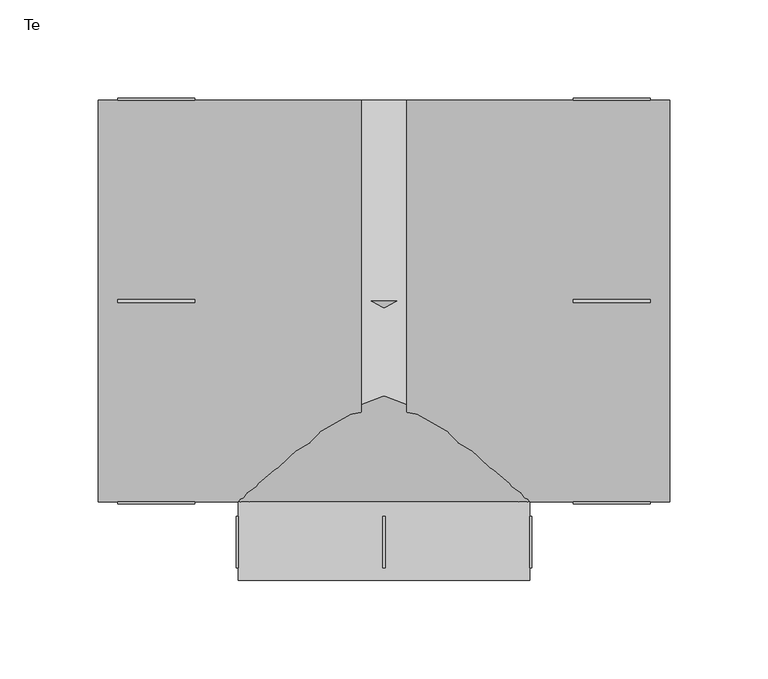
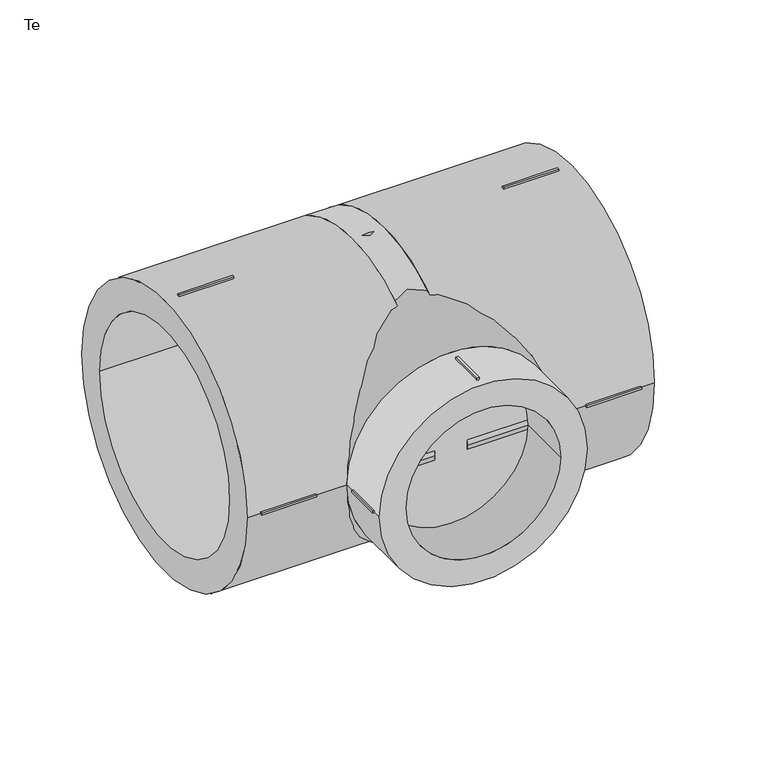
"""IFC4 building model written with IfcOpenShell, lengths in millimetres: pipe fitting geometry, EGB_VASEN_ PPR_Te WXR300_Te reducida WXR310 : Te."""

import ifcopenshell
import ifcopenshell.guid

model = None  # the IFC model being written
_history = None  # IfcOwnerHistory: only IFC2X3 demands one
_inside = {}  # id of a spatial element -> (the spatial element, [elements in it])
_under = {}  # id of a project, library or spatial element -> (it, [spatial elements below it])
_declared = {}  # id of a project -> (the project, [libraries it declares])
_typed = {}  # id of a type object -> (the type object, [elements of that type])
_made_of = {}  # id of a material, layer set ... -> (it, [elements and type objects made of it])


def new_model(schema):
    """Start an empty IFC model of exactly this schema.

    Asked for "IFC4X3", IfcOpenShell would pick the latest addendum, in which some entities
    have other attributes; the version numbers below select the first issue.
    IFC2X3 requires an IfcOwnerHistory on every rooted entity: one is made here for all.
    """
    global model, _history
    if schema == "IFC4X3":
        model = ifcopenshell.file(schema_version=(4, 3, 0, 0))
    else:
        model = ifcopenshell.file(schema=schema)
    _inside.clear()
    _under.clear()
    _declared.clear()
    _typed.clear()
    _made_of.clear()
    _history = None
    if model.schema == "IFC2X3":
        org = make("IfcOrganization", Name="unknown")
        user = make(
            "IfcPersonAndOrganization",
            ThePerson=make("IfcPerson", FamilyName="unknown"),
            TheOrganization=org,
        )
        app = make(
            "IfcApplication",
            ApplicationDeveloper=org,
            Version="unknown",
            ApplicationFullName="unknown",
            ApplicationIdentifier="unknown",
        )
        _history = make(
            "IfcOwnerHistory",
            OwningUser=user,
            OwningApplication=app,
            ChangeAction="ADDED",
            CreationDate=0,
        )
    return model


def make(cls, **values):
    """One entity of the class cls with the attributes given. An attribute that is None is left unset."""
    return model.create_entity(
        cls, **{name: value for name, value in values.items() if value is not None}
    )


def rooted(cls, **values):
    """An entity with a GlobalId (a new one), such as an element, a storey or a relation."""
    return make(cls, GlobalId=ifcopenshell.guid.new(), OwnerHistory=_history, **values)


def si_unit(unit_type, name, prefix=None):
    """IfcSIUnit, for example si_unit("LENGTHUNIT", "METRE", prefix="MILLI")."""
    return make("IfcSIUnit", UnitType=unit_type, Prefix=prefix, Name=name)


def assignment(units):
    """IfcUnitAssignment: the units of a project."""
    return None if units is None else make("IfcUnitAssignment", Units=units)


def point(xyz):
    """IfcCartesianPoint."""
    return None if xyz is None else make("IfcCartesianPoint", Coordinates=xyz)


def direction(xyz):
    """IfcDirection."""
    return None if xyz is None else make("IfcDirection", DirectionRatios=xyz)


def frame(location, z_axis=None, x_axis=None):
    """IfcAxis2Placement3D, a coordinate frame: its origin and axes. An axis left out is left unset."""
    return make(
        "IfcAxis2Placement3D",
        Location=point(location),
        Axis=direction(z_axis),
        RefDirection=direction(x_axis),
    )


def frame_2d(location, x_axis=None):
    """IfcAxis2Placement2D, a coordinate frame in the plane: its origin and x axis."""
    return make(
        "IfcAxis2Placement2D", Location=point(location), RefDirection=direction(x_axis)
    )


def origin():
    """The frame at (0, 0, 0) with its axes left unset."""
    return frame((0.0, 0.0, 0.0))


def origin_2d():
    """The frame at (0, 0) in the plane with its x axis left unset."""
    return frame_2d((0.0, 0.0))


def place(relative_to, where):
    """IfcLocalPlacement: puts the frame where relative to a parent placement (None: the world)."""
    return make(
        "IfcLocalPlacement", PlacementRelTo=relative_to, RelativePlacement=where
    )


def context(
    kind, dimensions, precision=None, world=None, true_north=None, identifier=None
):
    """IfcGeometricRepresentationContext, for example the 3D "Model" context."""
    return make(
        "IfcGeometricRepresentationContext",
        ContextIdentifier=identifier,
        ContextType=kind,
        CoordinateSpaceDimension=dimensions,
        Precision=precision,
        WorldCoordinateSystem=world,
        TrueNorth=true_north,
    )


def project(units=None, contexts=None):
    """IfcProject with its units and contexts."""
    return rooted(
        "IfcProject",
        Name="project",
        RepresentationContexts=contexts,
        UnitsInContext=assignment(units),
    )


def spatial(cls, under=None, at=None, **own):
    """A site, building, storey or space (cls), placed at a placement, below another one or the project."""
    s = rooted(cls, ObjectPlacement=at, **own)
    if under is not None:
        _under.setdefault(under.id(), (under, []))[1].append(s)
    return s


def polyline(points):
    """IfcPolyline through the points."""
    return make("IfcPolyline", Points=[point(p) for p in points])


def circle_curve(where, radius):
    """IfcCircle in the frame where."""
    return make("IfcCircle", Position=where, Radius=radius)


def trimmed(basis, trim1, trim2, sense, master):
    """IfcTrimmedCurve: the piece of a basis curve between two trims."""
    return make(
        "IfcTrimmedCurve",
        BasisCurve=basis,
        Trim1=trim1,
        Trim2=trim2,
        SenseAgreement=sense,
        MasterRepresentation=master,
    )


def segment(curve, same_sense, transition):
    """IfcCompositeCurveSegment."""
    return make(
        "IfcCompositeCurveSegment",
        Transition=transition,
        SameSense=same_sense,
        ParentCurve=curve,
    )


def composite_curve(segments, self_intersect=None):
    """IfcCompositeCurve: segments joined end to end."""
    return make("IfcCompositeCurve", Segments=segments, SelfIntersect=self_intersect)


def outline(outer, holes=None, kind="AREA"):
    """IfcArbitraryClosedProfileDef: a profile drawn as a closed curve; with holes, ...WithVoids."""
    if holes is None:
        return make("IfcArbitraryClosedProfileDef", ProfileType=kind, OuterCurve=outer)
    return make(
        "IfcArbitraryProfileDefWithVoids",
        ProfileType=kind,
        OuterCurve=outer,
        InnerCurves=holes,
    )


def extrude(swept, where, along, depth):
    """IfcExtrudedAreaSolid: the profile swept, set in the frame where, extruded along a direction by depth."""
    return make(
        "IfcExtrudedAreaSolid",
        SweptArea=swept,
        Position=where,
        ExtrudedDirection=direction(along),
        Depth=depth,
    )


def shape(context_of_items, identifier, shape_type, items):
    """IfcShapeRepresentation: the items that make up one representation, for example the "Body"."""
    return make(
        "IfcShapeRepresentation",
        ContextOfItems=context_of_items,
        RepresentationIdentifier=identifier,
        RepresentationType=shape_type,
        Items=items,
    )


def source(mapping_origin, context_of_items, identifier, shape_type, items):
    """IfcRepresentationMap: a shape defined once, which mapped items show again and again."""
    return make(
        "IfcRepresentationMap",
        MappingOrigin=mapping_origin,
        MappedRepresentation=shape(context_of_items, identifier, shape_type, items),
    )


def transform(
    local_origin,
    x_axis=None,
    y_axis=None,
    z_axis=None,
    scale=None,
    scale2=None,
    scale3=None,
    uniform=True,
):
    """IfcCartesianTransformationOperator3D, or its non-uniform kind. x_axis, y_axis, z_axis: its Axis1, 2, 3."""
    if uniform:
        return make(
            "IfcCartesianTransformationOperator3D",
            Axis1=direction(x_axis),
            Axis2=direction(y_axis),
            LocalOrigin=point(local_origin),
            Scale=scale,
            Axis3=direction(z_axis),
        )
    return make(
        "IfcCartesianTransformationOperator3DnonUniform",
        Axis1=direction(x_axis),
        Axis2=direction(y_axis),
        LocalOrigin=point(local_origin),
        Scale=scale,
        Axis3=direction(z_axis),
        Scale2=scale2,
        Scale3=scale3,
    )


def mapped(mapping_source, mapping_target):
    """IfcMappedItem: shows the shape of a source again, moved by a transform."""
    return make(
        "IfcMappedItem", MappingSource=mapping_source, MappingTarget=mapping_target
    )


def made_of(thing, what):
    """Note that an element or type object is made of a material, layer set ...; save() writes the relation."""
    if what is not None:
        _made_of.setdefault(what.id(), (what, []))[1].append(thing)
    return thing


def element(
    cls,
    number,
    at=None,
    inside=None,
    cuts=None,
    type_object=None,
    material=None,
    context=None,
    identifier="Body",
    shape_type=None,
    held_by="IfcProductDefinitionShape",
    body=None,
    shapes=None,
    **own,
):
    """One element of the class cls, such as IfcWall. Its Tag is "e" and its number.

    at: its placement. inside: the storey or other place that contains it. cuts: it is an
    opening in that element (IfcRelVoidsElement). A single representation is given by context,
    identifier, shape_type and body (its items); several are given by shapes. held_by: the class
    of the entity that holds the representations. save() writes the other relations.
    """
    e = rooted(cls, Tag="e%d" % number, ObjectPlacement=at, **own)
    if body is not None:
        shapes = [shape(context, identifier, shape_type, body)]
    if shapes is not None:
        e.Representation = make(held_by, Representations=shapes)
    if inside is not None:
        _inside.setdefault(inside.id(), (inside, []))[1].append(e)
    if cuts is not None:
        rooted(
            "IfcRelVoidsElement", RelatingBuildingElement=cuts, RelatedOpeningElement=e
        )
    if type_object is not None:
        _typed.setdefault(type_object.id(), (type_object, []))[1].append(e)
    return made_of(e, material)


def aggregate(whole, parts):
    """IfcRelAggregates: a whole, such as a stair, and the parts it consists of."""
    return rooted("IfcRelAggregates", RelatingObject=whole, RelatedObjects=parts)


def save(model, path):
    """Write the relations noted so far, then the file.

    IfcRelAggregates (storeys below a building ...), IfcRelContainedInSpatialStructure (elements
    in a storey), IfcRelDefinesByType, IfcRelAssociatesMaterial and IfcRelDeclares: one each for
    every whole, place, type object, material and project.
    """
    for whole, parts in _under.values():
        aggregate(whole, parts)
    for where, things in _inside.values():
        rooted(
            "IfcRelContainedInSpatialStructure",
            RelatedElements=things,
            RelatingStructure=where,
        )
    for kind, things in _typed.values():
        rooted("IfcRelDefinesByType", RelatedObjects=things, RelatingType=kind)
    for what, things in _made_of.values():
        rooted("IfcRelAssociatesMaterial", RelatedObjects=things, RelatingMaterial=what)
    for by, libraries in _declared.values():
        rooted("IfcRelDeclares", RelatingContext=by, RelatedDefinitions=libraries)
    model.write(path)


def plane_surface(at):
    """IfcPlane: the flat surface through the origin of the frame at, square to its z axis."""
    return make("IfcPlane", Position=at)


def revolved_surface(curve, axis_point, axis_direction):
    """IfcSurfaceOfRevolution: the curve turned about the line through axis_point along axis_direction."""
    return make(
        "IfcSurfaceOfRevolution",
        SweptCurve=make("IfcArbitraryOpenProfileDef", ProfileType="CURVE", Curve=curve),
        AxisPosition=make("IfcAxis1Placement", Location=point(axis_point), Axis=direction(axis_direction)),
    )


def advanced_brep(points, edges, surfaces, faces):
    """IfcAdvancedBrep: a solid bounded by faces that lie on surfaces and meet in shared edges.

    An edge is (start, end): straight between two places in points (the first is 0);
    or (start, end, curve); or (start, end, curve, False) where it runs against its curve.
    A face is (place in surfaces, loops), or (place, loops, False) where it looks against
    its surface's normal. A loop lists edges by number (the first is 1), with a minus sign
    where the edge is run from its end to its start. The first loop is the outer one.
    """
    corners = [point(p) for p in points]
    vertices = [make("IfcVertexPoint", VertexGeometry=c) for c in corners]
    made = []
    for start, end, *more in edges:
        made.append(
            make(
                "IfcEdgeCurve",
                EdgeStart=vertices[start],
                EdgeEnd=vertices[end],
                EdgeGeometry=more[0] if more else make("IfcPolyline", Points=[corners[start], corners[end]]),
                SameSense=more[1] if len(more) > 1 else True,
            )
        )
    hull = []
    for where, loops, *sense in faces:
        bounds = []
        for j, loop in enumerate(loops):
            ring = [make("IfcOrientedEdge", EdgeElement=made[abs(k) - 1], Orientation=k > 0) for k in loop]
            bounds.append(
                make(
                    "IfcFaceOuterBound" if j == 0 else "IfcFaceBound",
                    Bound=make("IfcEdgeLoop", EdgeList=ring),
                    Orientation=True,
                )
            )
        hull.append(make("IfcAdvancedFace", Bounds=bounds, FaceSurface=surfaces[where], SameSense=sense[0] if sense else True))
    return make("IfcAdvancedBrep", Outer=make("IfcClosedShell", CfsFaces=hull))


def te_399c2225(model_context):
    return source(origin(), model_context, "Body", "SolidModel", [
        extrude(outline(polyline([(-0.75, -109.5), (0.75, -109.5), (0.75, -135.5), (-0.75, -135.5), (-0.75, -109.5)])), frame((0.0, 0.0, 73.0), z_axis=(0.0, 0.0, 1.0), x_axis=(1.0, 0.0, 0.0)), (0.0, 0.0, 1.0), 2.0),
        extrude(outline(polyline([(-0.75, -109.5), (0.75, -109.5), (0.75, -135.5), (-0.75, -135.5), (-0.75, -109.5)])), frame((0.0, 0.0, -75.0), z_axis=(0.0, 0.0, 1.0), x_axis=(1.0, 0.0, 0.0)), (0.0, 0.0, 1.0), 2.0),
        extrude(outline(polyline([(73.0, -109.5), (75.0, -109.5), (75.0, -135.5), (73.0, -135.5), (73.0, -109.5)])), frame((0.0, 0.0, -0.75), z_axis=(0.0, 0.0, 1.0), x_axis=(1.0, 0.0, 0.0)), (0.0, 0.0, 1.0), 1.5),
        extrude(outline(polyline([(-75.0, -109.5), (-73.0, -109.5), (-73.0, -135.5), (-75.0, -135.5), (-75.0, -109.5)])), frame((0.0, 0.0, -0.75), z_axis=(0.0, 0.0, 1.0), x_axis=(1.0, 0.0, 0.0)), (0.0, 0.0, 1.0), 1.5),
        extrude(outline(polyline([(96.0, -0.75), (96.0, 0.75), (135.2, 0.75), (135.2, -0.75), (96.0, -0.75)])), frame((0.0, 0.0, 101.0), z_axis=(0.0, 0.0, 1.0), x_axis=(1.0, 0.0, 0.0)), (0.0, 0.0, 1.0), 2.0),
        extrude(outline(polyline([(96.0, -0.75), (96.0, 0.75), (135.2, 0.75), (135.2, -0.75), (96.0, -0.75)])), frame((0.0, 0.0, -103.0), z_axis=(0.0, 0.0, 1.0), x_axis=(1.0, 0.0, 0.0)), (0.0, 0.0, 1.0), 2.0),
        extrude(outline(polyline([(96.0, 101.0), (96.0, 103.0), (135.2, 103.0), (135.2, 101.0), (96.0, 101.0)])), frame((0.0, 0.0, -0.75), z_axis=(0.0, 0.0, 1.0), x_axis=(1.0, 0.0, 0.0)), (0.0, 0.0, 1.0), 1.5),
        extrude(outline(polyline([(96.0, -103.0), (96.0, -101.0), (135.2, -101.0), (135.2, -103.0), (96.0, -103.0)])), frame((0.0, 0.0, -0.75), z_axis=(0.0, 0.0, 1.0), x_axis=(1.0, 0.0, 0.0)), (0.0, 0.0, 1.0), 1.5),
        extrude(outline(polyline([(-96.0, 0.75), (-96.0, -0.75), (-135.2, -0.75), (-135.2, 0.75), (-96.0, 0.75)])), frame((0.0, 0.0, 101.0), z_axis=(0.0, 0.0, 1.0), x_axis=(1.0, 0.0, 0.0)), (0.0, 0.0, 1.0), 2.0),
        extrude(outline(polyline([(-96.0, 0.75), (-96.0, -0.75), (-135.2, -0.75), (-135.2, 0.75), (-96.0, 0.75)])), frame((0.0, 0.0, -103.0), z_axis=(0.0, 0.0, 1.0), x_axis=(1.0, 0.0, 0.0)), (0.0, 0.0, 1.0), 2.0),
        extrude(outline(polyline([(-96.0, 103.0), (-96.0, 101.0), (-135.2, 101.0), (-135.2, 103.0), (-96.0, 103.0)])), frame((0.0, 0.0, -0.75), z_axis=(0.0, 0.0, 1.0), x_axis=(1.0, 0.0, 0.0)), (0.0, 0.0, 1.0), 1.5),
        extrude(outline(polyline([(-96.0, -101.0), (-96.0, -103.0), (-135.2, -103.0), (-135.2, -101.0), (-96.0, -101.0)])), frame((0.0, 0.0, -0.75), z_axis=(0.0, 0.0, 1.0), x_axis=(1.0, 0.0, 0.0)), (0.0, 0.0, 1.0), 1.5),
        extrude(outline(composite_curve([segment(trimmed(circle_curve(origin_2d(), 74.0), [point((0.0, 74.0))], [point((0.0, -74.0))], False, "CARTESIAN"), True, "CONTINUOUS"), segment(trimmed(circle_curve(origin_2d(), 74.0), [point((0.0, -74.0))], [point((0.0, 74.0))], False, "CARTESIAN"), True, "CONTINUOUS")], self_intersect=False), holes=[composite_curve([segment(trimmed(circle_curve(origin_2d(), 55.0), [point((0.0, 55.0))], [point((0.0, -55.0))], True, "CARTESIAN"), True, "CONTINUOUS"), segment(trimmed(circle_curve(origin_2d(), 55.0), [point((0.0, -55.0))], [point((0.0, 55.0))], True, "CARTESIAN"), True, "CONTINUOUS")], self_intersect=False)]), frame((0.0, -142.0, 0.0), z_axis=(0.0, 1.0, 0.0), x_axis=(0.0, 0.0, 1.0)), (0.0, 0.0, 1.0), 40.0),
        extrude(outline(composite_curve([segment(trimmed(circle_curve(origin_2d(), 102.0), [point((-102.0, 0.0))], [point((102.0, 0.0))], False, "CARTESIAN"), True, "CONTINUOUS"), segment(trimmed(circle_curve(origin_2d(), 102.0), [point((102.0, 0.0))], [point((-102.0, 0.0))], False, "CARTESIAN"), True, "CONTINUOUS")], self_intersect=False), holes=[composite_curve([segment(trimmed(circle_curve(origin_2d(), 80.0), [point((-80.0, 0.0))], [point((80.0, 0.0))], True, "CARTESIAN"), True, "CONTINUOUS"), segment(trimmed(circle_curve(origin_2d(), 80.0), [point((80.0, 0.0))], [point((-80.0, 0.0))], True, "CARTESIAN"), True, "CONTINUOUS")], self_intersect=False)]), frame((11.6, 0.0, 0.0), z_axis=(1.0, 0.0, 0.0), x_axis=(0.0, 1.0, 0.0)), (0.0, 0.0, 1.0), 133.4),
        extrude(outline(composite_curve([segment(trimmed(circle_curve(origin_2d(), 102.0), [point((-102.0, 0.0))], [point((102.0, 0.0))], False, "CARTESIAN"), True, "CONTINUOUS"), segment(trimmed(circle_curve(origin_2d(), 102.0), [point((102.0, 0.0))], [point((-102.0, 0.0))], False, "CARTESIAN"), True, "CONTINUOUS")], self_intersect=False), holes=[composite_curve([segment(trimmed(circle_curve(origin_2d(), 80.0), [point((-80.0, 0.0))], [point((80.0, 0.0))], True, "CARTESIAN"), True, "CONTINUOUS"), segment(trimmed(circle_curve(origin_2d(), 80.0), [point((80.0, 0.0))], [point((-80.0, 0.0))], True, "CARTESIAN"), True, "CONTINUOUS")], self_intersect=False)]), frame((-145.0, 0.0, 0.0), z_axis=(1.0, 0.0, 0.0), x_axis=(0.0, 1.0, 0.0)), (0.0, 0.0, 1.0), 133.4),
        advanced_brep(
        [(102.0, 0.0, 0.0), (-102.0, 0.0, 0.0), (74.0, -102.0, 0.0), (-74.0, -102.0, 0.0)],
        [
            (0, 1, circle_curve(frame((0.0, 0.0, 0.0), z_axis=(0.0, 1.0, 0.0), x_axis=(1.0, 0.0, 0.0)), 102.0)),
            (1, 0, circle_curve(frame((0.0, 0.0, 0.0), z_axis=(0.0, 1.0, 0.0), x_axis=(-1.0, 0.0, 0.0)), 102.0)),
            (2, 3, circle_curve(frame((0.0, -102.0, 0.0), z_axis=(0.0, -1.0, 0.0), x_axis=(-1.0, 0.0, 0.0)), 74.0)),
            (3, 2, circle_curve(frame((0.0, -102.0, 0.0), z_axis=(0.0, -1.0, 0.0), x_axis=(1.0, 0.0, 0.0)), 74.0)),
            (3, 1),
            (0, 2),
        ],
        [
            plane_surface(frame((0.0, 0.0, 0.0), z_axis=(0.0, 1.0, 0.0), x_axis=(0.0, 0.0, -1.0))),
            plane_surface(frame((0.0, -102.0, 0.0), z_axis=(0.0, -1.0, 0.0), x_axis=(0.0, 0.0, -1.0))),
            revolved_surface(polyline([(-74.00000000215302, -102.0, 0.0), (-102.0, 0.0, 0.0)]), (0.0, -371.5714286, 0.0), (0.0, 1.0, 0.0)),
            revolved_surface(polyline([(74.00000000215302, -102.0, 0.0), (102.0, 0.0, 0.0)]), (0.0, -371.5714286, 0.0), (0.0, 1.0, 0.0)),
        ],
        [
            (0, [[1, 2]]),
            (1, [[3, 4]]),
            (2, [[-4, 5, -1, 6]]),
            (3, [[-3, -6, -2, -5]]),
        ],
    ),
        extrude(outline(composite_curve([segment(trimmed(circle_curve(origin_2d(), 102.0), [point((-102.0, 0.0))], [point((102.0, 0.0))], False, "CARTESIAN"), True, "CONTINUOUS"), segment(trimmed(circle_curve(origin_2d(), 102.0), [point((102.0, 0.0))], [point((-102.0, 0.0))], False, "CARTESIAN"), True, "CONTINUOUS")], self_intersect=False)), frame((-11.6, 0.0, 0.0), z_axis=(1.0, 0.0, 0.0), x_axis=(0.0, 1.0, 0.0)), (0.0, 0.0, 1.0), 23.2),
    ])


if __name__ == "__main__":
    model = new_model("IFC4")
    model_context = context("Model", 3, world=origin())
    ifc_project = project(units=[si_unit("LENGTHUNIT", "METRE", prefix="MILLI")], contexts=[model_context])
    site = spatial("IfcSite", under=ifc_project)
    building = spatial("IfcBuilding", under=site)
    placement = place(None, origin())
    te_shape = te_399c2225(model_context)
    element("IfcPipeFitting", 1, ObjectType="EGB_VASEN_ PPR_Te WXR300_Te reducida WXR310 : Te", at=placement, inside=building, context=model_context, shape_type="MappedRepresentation", body=[
        mapped(te_shape, transform((0.0, 0.0, 0.0), x_axis=(1.0, 0.0, 0.0), y_axis=(0.0, 1.0, 0.0), z_axis=(0.0, 0.0, 1.0))),
    ])
    save(model, "model.ifc")
